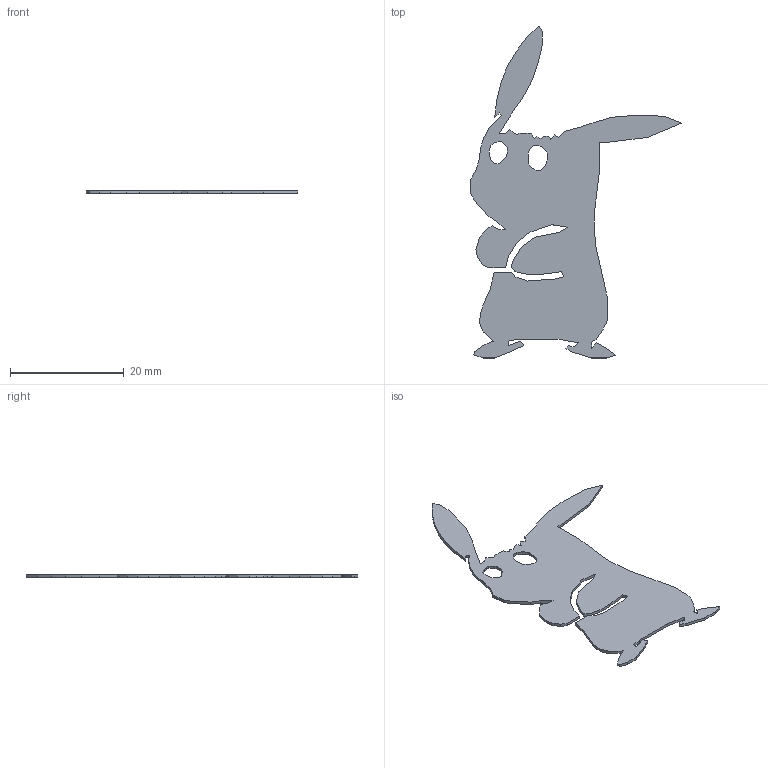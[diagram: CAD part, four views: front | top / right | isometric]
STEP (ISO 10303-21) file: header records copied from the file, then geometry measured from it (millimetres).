
FILE_DESCRIPTION(('STEP AP203'), '1');
FILE_NAME('ïîêåìîí 002 öâåò êðàñíûé', '', ('UNSPECIFIED'), ('UNSPECIFIED'), 'ASCON STEP Converter 1.3', 'ASCON Math Kernel', '');
FILE_SCHEMA(('CONFIG_CONTROL_DESIGN'));
Length unit declared in the file: millimetre
Bounding box: 37.31 x 58.46 x 0.5 mm (x, y, z)
Volume: 430.7 mm3; surface area: 1875 mm2
Topology: 1 solids, 1 shells, 152 faces, 450 edges, 300 vertices
Faces by surface type: plane 152
Entity records: 6242 total; most frequent: CARTESIAN_POINT 903, ORIENTED_EDGE 900, DIRECTION 756, EDGE_CURVE 450, LINE 450, VECTOR 450, VERTEX_POINT 300, FACE_BOUND 156
